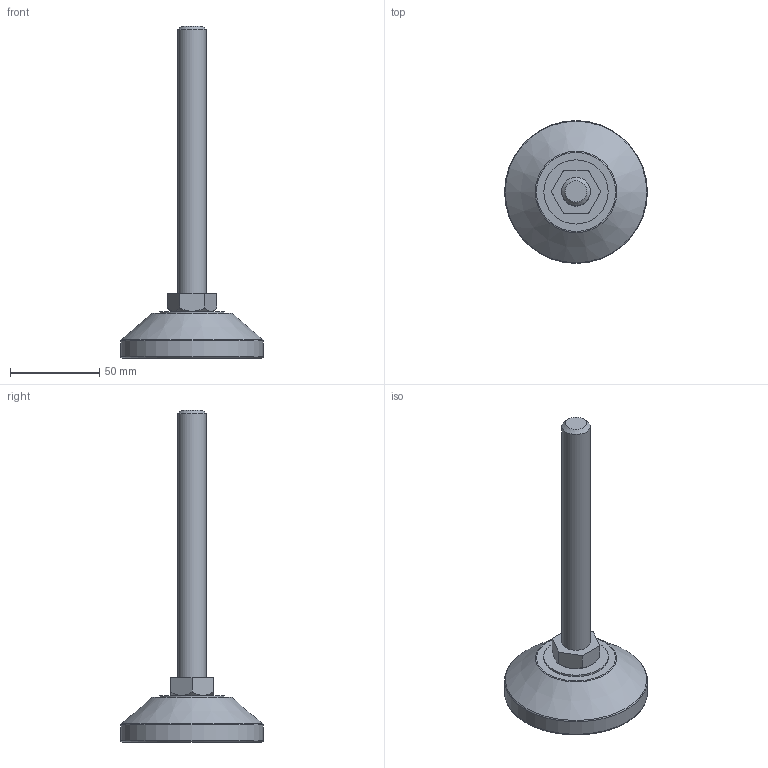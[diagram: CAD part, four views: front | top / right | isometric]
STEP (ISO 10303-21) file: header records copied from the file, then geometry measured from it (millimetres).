
FILE_DESCRIPTION(/* description */ (''),/* implementation_level */ '2;1');
FILE_NAME(/* name */ 'D:\조절자\F\F-M16-150L.stp',/* time_stamp */ '2016-03-14T14:32:45+09:00',/* author */ ('GS-DT-1-001'),/* organization */ (''),/* preprocessor_version */ 'ST-DEVELOPER v15.6',/* originating_system */ 'Autodesk Inventor LT ',/* authorisation */ '');
FILE_SCHEMA (('AUTOMOTIVE_DESIGN { 1 0 10303 214 3 1 1 }'));
Length unit declared in the file: millimetre
Products named in the file (1): F-M16-150L
Bounding box: 80 x 80 x 186 mm (x, y, z)
Volume: 103012.6 mm3; surface area: 25981.1 mm2
Topology: 1 solids, 2 shells, 46 faces, 81 edges, 50 vertices
Faces by surface type: plane 21, cylinder 13, cone 8, torus 4
Full cylindrical faces by diameter (mm): 6.912 x1, 8 x1, 8.2 x1, 8.3 x1, 16 x2, 36 x1, 50 x1, 57 x1, 61 x1, 71 x1, 75 x1, 80 x1
Entity records: 988 total; most frequent: DIRECTION 180, CARTESIAN_POINT 163, ORIENTED_EDGE 110, AXIS2_PLACEMENT_3D 84, EDGE_LOOP 82, EDGE_CURVE 55, VERTEX_POINT 49, FACE_OUTER_BOUND 46
